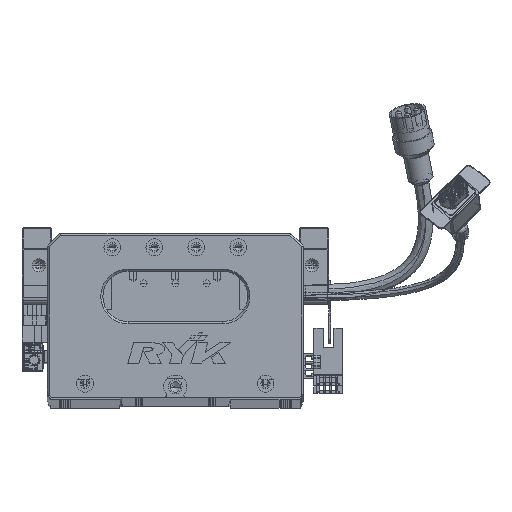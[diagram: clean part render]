
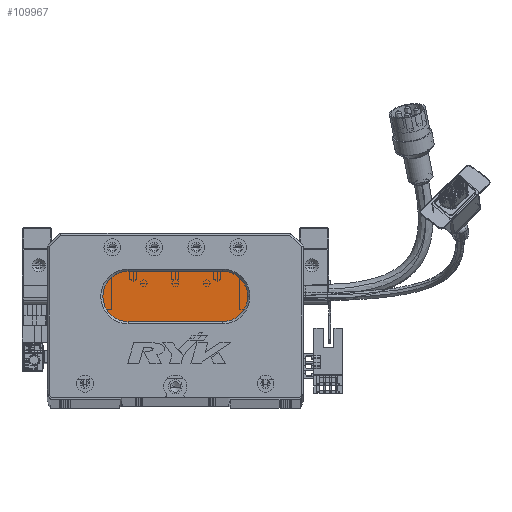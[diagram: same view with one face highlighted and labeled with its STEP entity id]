
A CAD part, top view. The second image highlights one B-rep face of the part: STEP entity #109967.
In plain terms, the highlighted planar face has unit normal (0, 0, 1) as drawn and (0, 0, -1) by its records, which use the part's own axes.
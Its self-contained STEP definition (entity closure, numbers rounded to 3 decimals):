
#254 = AXIS2_PLACEMENT_3D ( 'NONE', #93153, #48798, #58294 ) ;
#2297 = DIRECTION ( 'NONE',  ( -1., 0., 0. ) ) ;
#2882 = VERTEX_POINT ( 'NONE', #44651 ) ;
#4820 = DIRECTION ( 'NONE',  ( -1., 0., 0. ) ) ;
#5638 = CARTESIAN_POINT ( 'NONE',  ( 38.5, 60., 13. ) ) ;
#13582 = CARTESIAN_POINT ( 'NONE',  ( 83.5, 48., 13. ) ) ;
#14467 = ORIENTED_EDGE ( 'NONE', *, *, #101963, .T. ) ;
#16047 = VECTOR ( 'NONE', #2297, 1000. ) ;
#18898 = LINE ( 'NONE', #47828, #16047 ) ;
#18983 = AXIS2_PLACEMENT_3D ( 'NONE', #48917, #57220, #74675 ) ;
#25342 = CARTESIAN_POINT ( 'NONE',  ( 83.5, 36., 13. ) ) ;
#26355 = CARTESIAN_POINT ( 'NONE',  ( 26.5, 48., 13. ) ) ;
#26416 = ORIENTED_EDGE ( 'NONE', *, *, #40645, .T. ) ;
#28007 = CIRCLE ( 'NONE', #254, 12. ) ;
#30209 = DIRECTION ( 'NONE',  ( 0., 0., -1. ) ) ;
#33855 = CIRCLE ( 'NONE', #90461, 12. ) ;
#34291 = CARTESIAN_POINT ( 'NONE',  ( 38.5, 36., 13. ) ) ;
#39259 = EDGE_CURVE ( 'NONE', #81385, #75222, #48866, .T. ) ;
#40645 = EDGE_CURVE ( 'NONE', #56357, #73843, #18898, .T. ) ;
#44651 = CARTESIAN_POINT ( 'NONE',  ( 83.5, 60., 13. ) ) ;
#45195 = ORIENTED_EDGE ( 'NONE', *, *, #110484, .T. ) ;
#47828 = CARTESIAN_POINT ( 'NONE',  ( 83.5, 36., 13. ) ) ;
#48798 = DIRECTION ( 'NONE',  ( 0., 0., -1. ) ) ;
#48866 = CIRCLE ( 'NONE', #74280, 12. ) ;
#48917 = CARTESIAN_POINT ( 'NONE',  ( 83.5, 48., 13. ) ) ;
#48975 = LINE ( 'NONE', #81919, #88583 ) ;
#50899 = CARTESIAN_POINT ( 'NONE',  ( 38.5, 48., 13. ) ) ;
#56357 = VERTEX_POINT ( 'NONE', #25342 ) ;
#57220 = DIRECTION ( 'NONE',  ( 0., 0., -1. ) ) ;
#58294 = DIRECTION ( 'NONE',  ( -1., 0., 0. ) ) ;
#59706 = EDGE_LOOP ( 'NONE', ( #45195, #26416, #14467, #60425, #109034 ) ) ;
#60425 = ORIENTED_EDGE ( 'NONE', *, *, #39259, .T. ) ;
#60758 = DIRECTION ( 'NONE',  ( -1., 0., 0. ) ) ;
#68659 = EDGE_CURVE ( 'NONE', #75222, #2882, #48975, .T. ) ;
#73843 = VERTEX_POINT ( 'NONE', #34291 ) ;
#74280 = AXIS2_PLACEMENT_3D ( 'NONE', #50899, #106719, #60758 ) ;
#74675 = DIRECTION ( 'NONE',  ( -1., 0., 0. ) ) ;
#75052 = PLANE ( 'NONE',  #18983 ) ;
#75222 = VERTEX_POINT ( 'NONE', #5638 ) ;
#81385 = VERTEX_POINT ( 'NONE', #26355 ) ;
#81919 = CARTESIAN_POINT ( 'NONE',  ( 83.5, 60., 13. ) ) ;
#88583 = VECTOR ( 'NONE', #100554, 1000. ) ;
#90461 = AXIS2_PLACEMENT_3D ( 'NONE', #13582, #30209, #4820 ) ;
#93153 = CARTESIAN_POINT ( 'NONE',  ( 38.5, 48., 13. ) ) ;
#100542 = FACE_OUTER_BOUND ( 'NONE', #59706, .T. ) ;
#100554 = DIRECTION ( 'NONE',  ( 1., 0., 0. ) ) ;
#101963 = EDGE_CURVE ( 'NONE', #73843, #81385, #28007, .T. ) ;
#106719 = DIRECTION ( 'NONE',  ( 0., 0., -1. ) ) ;
#109034 = ORIENTED_EDGE ( 'NONE', *, *, #68659, .T. ) ;
#109967 = ADVANCED_FACE ( 'NONE', ( #100542 ), #75052, .T. ) ;
#110484 = EDGE_CURVE ( 'NONE', #2882, #56357, #33855, .T. ) ;
